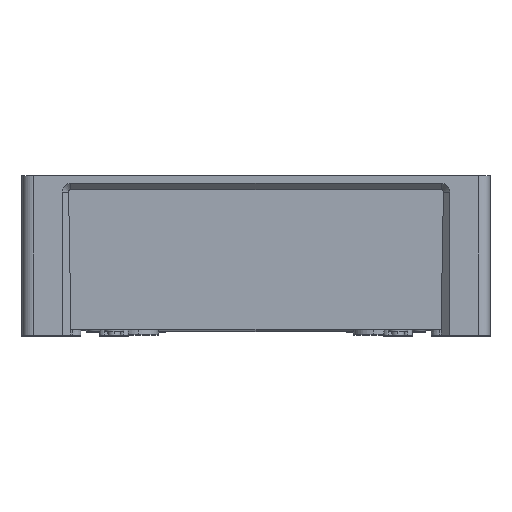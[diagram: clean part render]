
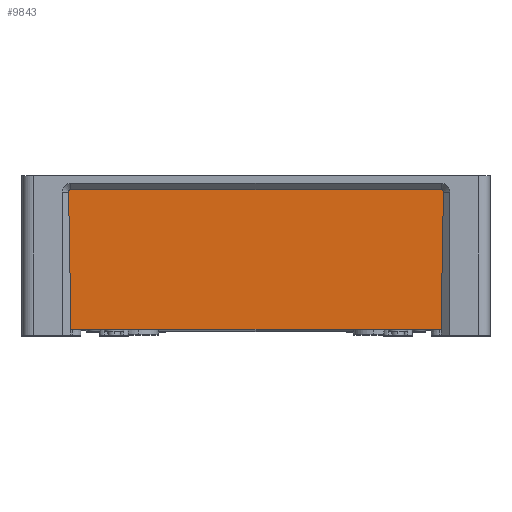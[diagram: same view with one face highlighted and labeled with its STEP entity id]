
A CAD part, top view. The second image highlights one B-rep face of the part: STEP entity #9843.
In plain terms, the highlighted planar face has unit normal (0, -0.018, 1).
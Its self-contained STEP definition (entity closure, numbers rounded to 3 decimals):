
#25 = VECTOR ( 'NONE', #260, 1000. ) ;
#26 = CARTESIAN_POINT ( 'NONE',  ( -94.55, -7.124, 141.176 ) ) ;
#27 = LINE ( 'NONE', #26, #25 ) ;
#217 = DIRECTION ( 'NONE',  ( 0., -1., -0.017 ) ) ;
#218 = DIRECTION ( 'NONE',  ( 0., -0.017, 1. ) ) ;
#219 = CARTESIAN_POINT ( 'NONE',  ( -119.5, 0., 141.3 ) ) ;
#220 = AXIS2_PLACEMENT_3D ( 'NONE', #219, #218, #217 ) ;
#221 = FACE_OUTER_BOUND ( 'NONE', #9844, .T. ) ;
#231 = PLANE ( 'NONE',  #220 ) ;
#260 = DIRECTION ( 'NONE',  ( 1., 0., 0. ) ) ;
#322 = CARTESIAN_POINT ( 'NONE',  ( 95.705, -8.3, 141.155 ) ) ;
#341 = DIRECTION ( 'NONE',  ( 0.017, -1., -0.017 ) ) ;
#342 = VECTOR ( 'NONE', #341, 1000. ) ;
#343 = CARTESIAN_POINT ( 'NONE',  ( -95.707, -8.183, 141.157 ) ) ;
#344 = LINE ( 'NONE', #343, #342 ) ;
#345 = CARTESIAN_POINT ( 'NONE',  ( -95.705, -8.3, 141.155 ) ) ;
#381 = CARTESIAN_POINT ( 'NONE',  ( -94.55, -7.124, 141.176 ) ) ;
#382 = CARTESIAN_POINT ( 'NONE',  ( -95.236, -7.124, 141.176 ) ) ;
#383 = CARTESIAN_POINT ( 'NONE',  ( -95.717, -7.614, 141.167 ) ) ;
#384 = CARTESIAN_POINT ( 'NONE',  ( -95.705, -8.3, 141.155 ) ) ;
#385 =( BOUNDED_CURVE ( )  B_SPLINE_CURVE ( 3, ( #384, #383, #382, #381 ),
 .UNSPECIFIED., .F., .T. ) 
 B_SPLINE_CURVE_WITH_KNOTS ( ( 4, 4 ),
 ( 4.695, 6.283 ),
 .UNSPECIFIED. ) 
 CURVE ( )  GEOMETRIC_REPRESENTATION_ITEM ( )  RATIONAL_B_SPLINE_CURVE ( ( 1., 0.801, 0.801, 1. ) ) 
 REPRESENTATION_ITEM ( '' )  );
#454 = CARTESIAN_POINT ( 'NONE',  ( 94.55, -7.124, 141.176 ) ) ;
#464 = CARTESIAN_POINT ( 'NONE',  ( -94.55, -7.124, 141.176 ) ) ;
#486 = DIRECTION ( 'NONE',  ( -0.017, -1., -0.017 ) ) ;
#487 = VECTOR ( 'NONE', #486, 1000. ) ;
#488 = CARTESIAN_POINT ( 'NONE',  ( 95.707, -8.183, 141.157 ) ) ;
#489 = LINE ( 'NONE', #488, #487 ) ;
#491 = CARTESIAN_POINT ( 'NONE',  ( 95.705, -8.3, 141.155 ) ) ;
#492 = CARTESIAN_POINT ( 'NONE',  ( 95.717, -7.614, 141.167 ) ) ;
#493 = CARTESIAN_POINT ( 'NONE',  ( 95.236, -7.124, 141.176 ) ) ;
#494 = CARTESIAN_POINT ( 'NONE',  ( 94.55, -7.124, 141.176 ) ) ;
#495 =( BOUNDED_CURVE ( )  B_SPLINE_CURVE ( 3, ( #494, #493, #492, #491 ),
 .UNSPECIFIED., .F., .F. ) 
 B_SPLINE_CURVE_WITH_KNOTS ( ( 4, 4 ),
 ( 0., 1.588 ),
 .UNSPECIFIED. ) 
 CURVE ( )  GEOMETRIC_REPRESENTATION_ITEM ( )  RATIONAL_B_SPLINE_CURVE ( ( 1., 0.801, 0.801, 1. ) ) 
 REPRESENTATION_ITEM ( '' )  );
#3554 = VERTEX_POINT ( 'NONE', #18196 ) ;
#3560 = VERTEX_POINT ( 'NONE', #18221 ) ;
#3562 = EDGE_CURVE ( 'NONE', #3554, #3560, #18167, .T. ) ;
#9843 = ADVANCED_FACE ( 'NONE', ( #221 ), #231, .T. ) ;
#9844 = EDGE_LOOP ( 'NONE', ( #9845, #9953, #9948, #9967, #9923, #9899 ) ) ;
#9845 = ORIENTED_EDGE ( 'NONE', *, *, #3562, .T. ) ;
#9898 = VERTEX_POINT ( 'NONE', #345 ) ;
#9899 = ORIENTED_EDGE ( 'NONE', *, *, #9900, .T. ) ;
#9900 = EDGE_CURVE ( 'NONE', #9898, #3554, #344, .T. ) ;
#9922 = VERTEX_POINT ( 'NONE', #464 ) ;
#9923 = ORIENTED_EDGE ( 'NONE', *, *, #9924, .F. ) ;
#9924 = EDGE_CURVE ( 'NONE', #9898, #9922, #385, .T. ) ;
#9947 = VERTEX_POINT ( 'NONE', #322 ) ;
#9948 = ORIENTED_EDGE ( 'NONE', *, *, #9949, .F. ) ;
#9949 = EDGE_CURVE ( 'NONE', #9966, #9947, #495, .T. ) ;
#9953 = ORIENTED_EDGE ( 'NONE', *, *, #9954, .F. ) ;
#9954 = EDGE_CURVE ( 'NONE', #9947, #3560, #489, .T. ) ;
#9966 = VERTEX_POINT ( 'NONE', #454 ) ;
#9967 = ORIENTED_EDGE ( 'NONE', *, *, #9968, .F. ) ;
#9968 = EDGE_CURVE ( 'NONE', #9922, #9966, #27, .T. ) ;
#18167 = LINE ( 'NONE', #18212, #18211 ) ;
#18196 = CARTESIAN_POINT ( 'NONE',  ( -94.482, -78.4, 139.932 ) ) ;
#18210 = DIRECTION ( 'NONE',  ( 1., 0., 0. ) ) ;
#18211 = VECTOR ( 'NONE', #18210, 1000. ) ;
#18212 = CARTESIAN_POINT ( 'NONE',  ( -119.5, -78.4, 139.932 ) ) ;
#18221 = CARTESIAN_POINT ( 'NONE',  ( 94.482, -78.4, 139.932 ) ) ;
